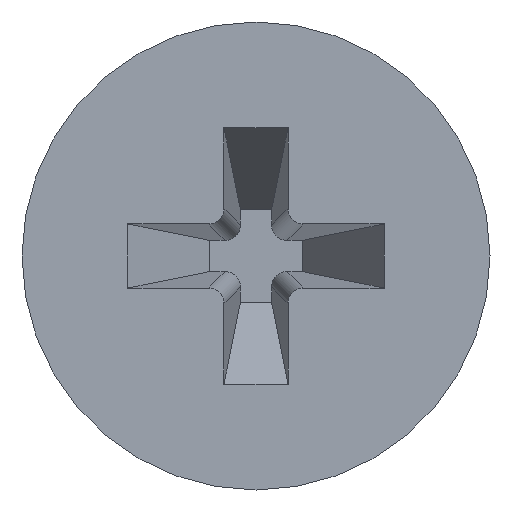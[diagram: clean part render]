
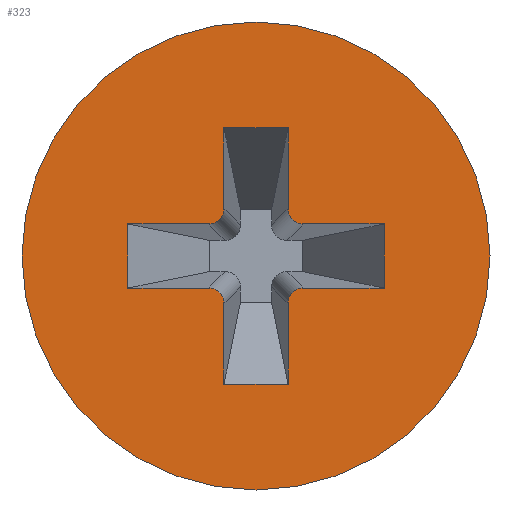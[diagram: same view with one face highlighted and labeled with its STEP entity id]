
A CAD part, left-side view. The second image highlights one B-rep face of the part: STEP entity #323.
In plain terms, the highlighted planar face has unit normal (-1, 0, 0).
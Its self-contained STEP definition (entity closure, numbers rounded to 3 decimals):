
#15 = VERTEX_POINT ( 'NONE', #247 ) ;
#19 = LINE ( 'NONE', #359, #704 ) ;
#22 = DIRECTION ( 'NONE',  ( 0., 0., -1. ) ) ;
#26 = CARTESIAN_POINT ( 'NONE',  ( 0., 0.575, 2.3 ) ) ;
#31 = LINE ( 'NONE', #434, #492 ) ;
#32 = VERTEX_POINT ( 'NONE', #285 ) ;
#38 = ORIENTED_EDGE ( 'NONE', *, *, #108, .F. ) ;
#51 = LINE ( 'NONE', #748, #400 ) ;
#53 = EDGE_CURVE ( 'NONE', #217, #708, #51, .T. ) ;
#59 = CARTESIAN_POINT ( 'NONE',  ( 0., 0.575, -2.3 ) ) ;
#80 = ORIENTED_EDGE ( 'NONE', *, *, #672, .F. ) ;
#83 = LINE ( 'NONE', #99, #517 ) ;
#94 = AXIS2_PLACEMENT_3D ( 'NONE', #576, #287, #515 ) ;
#96 = CARTESIAN_POINT ( 'NONE',  ( 0., -0.85, -0.575 ) ) ;
#99 = CARTESIAN_POINT ( 'NONE',  ( 0., 0.575, 0.575 ) ) ;
#100 = CARTESIAN_POINT ( 'NONE',  ( 0., 0.575, 0.85 ) ) ;
#108 = EDGE_CURVE ( 'NONE', #213, #701, #167, .T. ) ;
#113 = LINE ( 'NONE', #637, #188 ) ;
#118 = EDGE_CURVE ( 'NONE', #708, #736, #561, .T. ) ;
#127 = VECTOR ( 'NONE', #319, 1000. ) ;
#136 = ORIENTED_EDGE ( 'NONE', *, *, #173, .F. ) ;
#137 = DIRECTION ( 'NONE',  ( 1., 0., 0. ) ) ;
#138 = LINE ( 'NONE', #26, #471 ) ;
#142 = DIRECTION ( 'NONE',  ( 1., 0., 0. ) ) ;
#145 = CARTESIAN_POINT ( 'NONE',  ( 0., 2.3, 0.575 ) ) ;
#147 = CARTESIAN_POINT ( 'NONE',  ( 0., 0.85, 0.575 ) ) ;
#151 = VERTEX_POINT ( 'NONE', #100 ) ;
#159 = EDGE_CURVE ( 'NONE', #163, #595, #138, .T. ) ;
#161 = EDGE_CURVE ( 'NONE', #649, #217, #227, .T. ) ;
#163 = VERTEX_POINT ( 'NONE', #728 ) ;
#164 = CARTESIAN_POINT ( 'NONE',  ( 0., 0.575, -2.3 ) ) ;
#167 = CIRCLE ( 'NONE', #422, 0.275 ) ;
#169 = PLANE ( 'NONE',  #549 ) ;
#173 = EDGE_CURVE ( 'NONE', #550, #484, #742, .T. ) ;
#182 = EDGE_CURVE ( 'NONE', #32, #222, #31, .T. ) ;
#188 = VECTOR ( 'NONE', #408, 1000. ) ;
#197 = EDGE_CURVE ( 'NONE', #484, #333, #380, .T. ) ;
#201 = DIRECTION ( 'NONE',  ( 0., 0., -1. ) ) ;
#202 = CIRCLE ( 'NONE', #634, 0.275 ) ;
#205 = DIRECTION ( 'NONE',  ( 0., 0., -1. ) ) ;
#213 = VERTEX_POINT ( 'NONE', #389 ) ;
#217 = VERTEX_POINT ( 'NONE', #96 ) ;
#222 = VERTEX_POINT ( 'NONE', #59 ) ;
#224 = CARTESIAN_POINT ( 'NONE',  ( 0., -0.575, 0.85 ) ) ;
#225 = DIRECTION ( 'NONE',  ( 0., 0., 1. ) ) ;
#227 = CIRCLE ( 'NONE', #326, 0.275 ) ;
#231 = CARTESIAN_POINT ( 'NONE',  ( 0., -2.3, -0.575 ) ) ;
#233 = ORIENTED_EDGE ( 'NONE', *, *, #534, .F. ) ;
#237 = ORIENTED_EDGE ( 'NONE', *, *, #182, .F. ) ;
#247 = CARTESIAN_POINT ( 'NONE',  ( 0., 0., -4.2 ) ) ;
#263 = CARTESIAN_POINT ( 'NONE',  ( 0., -0.85, -0.85 ) ) ;
#279 = CARTESIAN_POINT ( 'NONE',  ( 0., -2.3, -0.575 ) ) ;
#285 = CARTESIAN_POINT ( 'NONE',  ( 0., 0.575, -0.85 ) ) ;
#286 = CARTESIAN_POINT ( 'NONE',  ( 0., 0., 0. ) ) ;
#287 = DIRECTION ( 'NONE',  ( 1., 0., 0. ) ) ;
#290 = CARTESIAN_POINT ( 'NONE',  ( 0., 2.3, -0.575 ) ) ;
#293 = EDGE_CURVE ( 'NONE', #347, #649, #113, .T. ) ;
#294 = VECTOR ( 'NONE', #201, 1000. ) ;
#299 = DIRECTION ( 'NONE',  ( -1., 0., 0. ) ) ;
#302 = EDGE_CURVE ( 'NONE', #151, #550, #331, .T. ) ;
#314 = EDGE_CURVE ( 'NONE', #333, #413, #463, .T. ) ;
#319 = DIRECTION ( 'NONE',  ( 0., 1., 0. ) ) ;
#321 = ORIENTED_EDGE ( 'NONE', *, *, #302, .F. ) ;
#323 = ADVANCED_FACE ( 'NONE', ( #512, #356 ), #169, .T. ) ;
#326 = AXIS2_PLACEMENT_3D ( 'NONE', #263, #142, #205 ) ;
#327 = DIRECTION ( 'NONE',  ( 0., 0., -1. ) ) ;
#331 = CIRCLE ( 'NONE', #94, 0.275 ) ;
#333 = VERTEX_POINT ( 'NONE', #580 ) ;
#347 = VERTEX_POINT ( 'NONE', #687 ) ;
#349 = DIRECTION ( 'NONE',  ( 0., 0., -1. ) ) ;
#354 = CIRCLE ( 'NONE', #459, 4.2 ) ;
#356 = FACE_OUTER_BOUND ( 'NONE', #446, .T. ) ;
#357 = EDGE_CURVE ( 'NONE', #222, #347, #455, .T. ) ;
#359 = CARTESIAN_POINT ( 'NONE',  ( 0., -0.575, 0.575 ) ) ;
#363 = EDGE_LOOP ( 'NONE', ( #321, #680, #746, #546, #38, #564, #618, #370, #425, #646, #450, #237, #233, #454, #522, #136 ) ) ;
#370 = ORIENTED_EDGE ( 'NONE', *, *, #53, .F. ) ;
#376 = DIRECTION ( 'NONE',  ( 1., 0., 0. ) ) ;
#380 = LINE ( 'NONE', #619, #294 ) ;
#389 = CARTESIAN_POINT ( 'NONE',  ( 0., -0.85, 0.575 ) ) ;
#400 = VECTOR ( 'NONE', #685, 1000. ) ;
#401 = DIRECTION ( 'NONE',  ( 0., -1., 0. ) ) ;
#408 = DIRECTION ( 'NONE',  ( 0., 0., 1. ) ) ;
#413 = VERTEX_POINT ( 'NONE', #644 ) ;
#422 = AXIS2_PLACEMENT_3D ( 'NONE', #438, #376, #622 ) ;
#424 = DIRECTION ( 'NONE',  ( 0., 0., 1. ) ) ;
#425 = ORIENTED_EDGE ( 'NONE', *, *, #161, .F. ) ;
#429 = LINE ( 'NONE', #721, #127 ) ;
#430 = EDGE_CURVE ( 'NONE', #701, #163, #19, .T. ) ;
#434 = CARTESIAN_POINT ( 'NONE',  ( 0., 0.575, -0.575 ) ) ;
#438 = CARTESIAN_POINT ( 'NONE',  ( 0., -0.85, 0.85 ) ) ;
#440 = CARTESIAN_POINT ( 'NONE',  ( 0., 0.85, -0.85 ) ) ;
#441 = DIRECTION ( 'NONE',  ( 0., 0., -1. ) ) ;
#446 = EDGE_LOOP ( 'NONE', ( #80 ) ) ;
#450 = ORIENTED_EDGE ( 'NONE', *, *, #357, .F. ) ;
#454 = ORIENTED_EDGE ( 'NONE', *, *, #314, .F. ) ;
#455 = LINE ( 'NONE', #164, #516 ) ;
#459 = AXIS2_PLACEMENT_3D ( 'NONE', #286, #750, #349 ) ;
#462 = CARTESIAN_POINT ( 'NONE',  ( 0., -0.575, -0.85 ) ) ;
#463 = LINE ( 'NONE', #290, #519 ) ;
#471 = VECTOR ( 'NONE', #669, 1000. ) ;
#484 = VERTEX_POINT ( 'NONE', #709 ) ;
#489 = CARTESIAN_POINT ( 'NONE',  ( 0., 0.575, 2.3 ) ) ;
#492 = VECTOR ( 'NONE', #441, 1000. ) ;
#512 = FACE_BOUND ( 'NONE', #363, .T. ) ;
#515 = DIRECTION ( 'NONE',  ( 0., 0., 1. ) ) ;
#516 = VECTOR ( 'NONE', #401, 1000. ) ;
#517 = VECTOR ( 'NONE', #22, 1000. ) ;
#518 = CARTESIAN_POINT ( 'NONE',  ( 0., 0., 0. ) ) ;
#519 = VECTOR ( 'NONE', #695, 1000. ) ;
#522 = ORIENTED_EDGE ( 'NONE', *, *, #197, .F. ) ;
#534 = EDGE_CURVE ( 'NONE', #413, #32, #202, .T. ) ;
#546 = ORIENTED_EDGE ( 'NONE', *, *, #430, .F. ) ;
#549 = AXIS2_PLACEMENT_3D ( 'NONE', #518, #299, #225 ) ;
#550 = VERTEX_POINT ( 'NONE', #147 ) ;
#561 = LINE ( 'NONE', #279, #756 ) ;
#564 = ORIENTED_EDGE ( 'NONE', *, *, #623, .F. ) ;
#576 = CARTESIAN_POINT ( 'NONE',  ( 0., 0.85, 0.85 ) ) ;
#577 = CARTESIAN_POINT ( 'NONE',  ( 0., -2.3, 0.575 ) ) ;
#580 = CARTESIAN_POINT ( 'NONE',  ( 0., 2.3, -0.575 ) ) ;
#595 = VERTEX_POINT ( 'NONE', #489 ) ;
#611 = EDGE_CURVE ( 'NONE', #595, #151, #83, .T. ) ;
#618 = ORIENTED_EDGE ( 'NONE', *, *, #118, .F. ) ;
#619 = CARTESIAN_POINT ( 'NONE',  ( 0., 2.3, -0.575 ) ) ;
#622 = DIRECTION ( 'NONE',  ( 0., 0., 1. ) ) ;
#623 = EDGE_CURVE ( 'NONE', #736, #213, #429, .T. ) ;
#634 = AXIS2_PLACEMENT_3D ( 'NONE', #440, #137, #327 ) ;
#637 = CARTESIAN_POINT ( 'NONE',  ( 0., -0.575, -0.575 ) ) ;
#644 = CARTESIAN_POINT ( 'NONE',  ( 0., 0.85, -0.575 ) ) ;
#646 = ORIENTED_EDGE ( 'NONE', *, *, #293, .F. ) ;
#649 = VERTEX_POINT ( 'NONE', #462 ) ;
#654 = VECTOR ( 'NONE', #664, 1000. ) ;
#664 = DIRECTION ( 'NONE',  ( 0., 1., 0. ) ) ;
#669 = DIRECTION ( 'NONE',  ( 0., 1., 0. ) ) ;
#672 = EDGE_CURVE ( 'NONE', #15, #15, #354, .T. ) ;
#674 = DIRECTION ( 'NONE',  ( 0., 0., 1. ) ) ;
#680 = ORIENTED_EDGE ( 'NONE', *, *, #611, .F. ) ;
#685 = DIRECTION ( 'NONE',  ( 0., -1., 0. ) ) ;
#687 = CARTESIAN_POINT ( 'NONE',  ( 0., -0.575, -2.3 ) ) ;
#695 = DIRECTION ( 'NONE',  ( 0., -1., 0. ) ) ;
#701 = VERTEX_POINT ( 'NONE', #224 ) ;
#704 = VECTOR ( 'NONE', #424, 1000. ) ;
#708 = VERTEX_POINT ( 'NONE', #231 ) ;
#709 = CARTESIAN_POINT ( 'NONE',  ( 0., 2.3, 0.575 ) ) ;
#721 = CARTESIAN_POINT ( 'NONE',  ( 0., -0.575, 0.575 ) ) ;
#728 = CARTESIAN_POINT ( 'NONE',  ( 0., -0.575, 2.3 ) ) ;
#736 = VERTEX_POINT ( 'NONE', #577 ) ;
#742 = LINE ( 'NONE', #145, #654 ) ;
#746 = ORIENTED_EDGE ( 'NONE', *, *, #159, .F. ) ;
#748 = CARTESIAN_POINT ( 'NONE',  ( 0., -0.575, -0.575 ) ) ;
#750 = DIRECTION ( 'NONE',  ( 1., 0., 0. ) ) ;
#756 = VECTOR ( 'NONE', #674, 1000. ) ;
